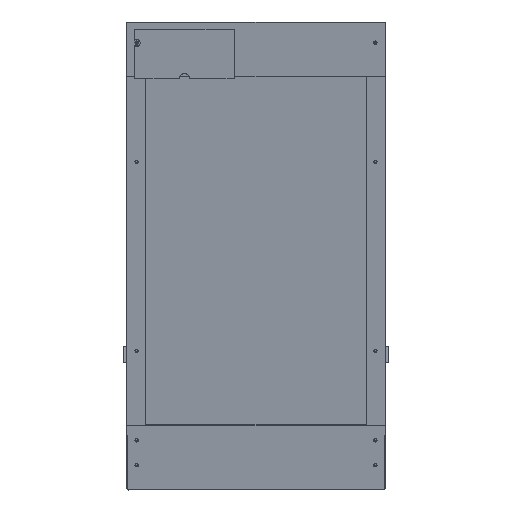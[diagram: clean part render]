
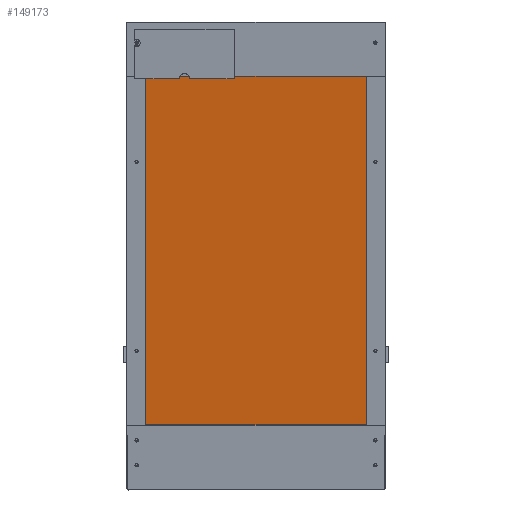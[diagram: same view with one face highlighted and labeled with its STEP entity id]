
A CAD part, top view. The second image highlights one B-rep face of the part: STEP entity #149173.
In plain terms, the highlighted planar face has unit normal (0, -0.174, 0.985).
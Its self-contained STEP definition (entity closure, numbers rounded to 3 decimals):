
#149004 = PLANE('',#149005);
#149005 = AXIS2_PLACEMENT_3D('',#149006,#149007,#149008);
#149006 = CARTESIAN_POINT('',(18.1,64.,86.285));
#149007 = DIRECTION('',(-0.,1.,0.));
#149008 = DIRECTION('',(0.,0.,-1.));
#149032 = PLANE('',#149033);
#149033 = AXIS2_PLACEMENT_3D('',#149034,#149035,#149036);
#149034 = CARTESIAN_POINT('',(241.9,240.675,111.437));
#149035 = DIRECTION('',(1.,0.,0.));
#149036 = DIRECTION('',(-0.,0.,1.));
#149060 = PLANE('',#149061);
#149061 = AXIS2_PLACEMENT_3D('',#149062,#149063,#149064);
#149062 = CARTESIAN_POINT('',(18.1,417.349,136.59));
#149063 = DIRECTION('',(0.,-1.,0.));
#149064 = DIRECTION('',(0.,0.,1.));
#149086 = PLANE('',#149087);
#149087 = AXIS2_PLACEMENT_3D('',#149088,#149089,#149090);
#149088 = CARTESIAN_POINT('',(18.1,240.675,111.437));
#149089 = DIRECTION('',(1.,0.,0.));
#149090 = DIRECTION('',(-0.,0.,1.));
#149103 = VERTEX_POINT('',#149104);
#149104 = CARTESIAN_POINT('',(241.9,417.349,148.59));
#149125 = EDGE_CURVE('',#149126,#149103,#149128,.T.);
#149126 = VERTEX_POINT('',#149127);
#149127 = CARTESIAN_POINT('',(18.1,417.349,148.59));
#149128 = SURFACE_CURVE('',#149129,(#149133,#149140),.PCURVE_S1.);
#149129 = LINE('',#149130,#149131);
#149130 = CARTESIAN_POINT('',(18.1,417.349,148.59));
#149131 = VECTOR('',#149132,1.);
#149132 = DIRECTION('',(1.,0.,0.));
#149133 = PCURVE('',#149060,#149134);
#149134 = DEFINITIONAL_REPRESENTATION('',(#149135),#149139);
#149135 = LINE('',#149136,#149137);
#149136 = CARTESIAN_POINT('',(12.,0.));
#149137 = VECTOR('',#149138,1.);
#149138 = DIRECTION('',(0.,-1.));
#149139 = ( GEOMETRIC_REPRESENTATION_CONTEXT(2) 
PARAMETRIC_REPRESENTATION_CONTEXT() REPRESENTATION_CONTEXT('2D SPACE',''
  ) );
#149140 = PCURVE('',#149141,#149146);
#149141 = PLANE('',#149142);
#149142 = AXIS2_PLACEMENT_3D('',#149143,#149144,#149145);
#149143 = CARTESIAN_POINT('',(18.1,417.349,148.59));
#149144 = DIRECTION('',(0.,0.174,-0.985));
#149145 = DIRECTION('',(0.,-0.985,-0.174));
#149146 = DEFINITIONAL_REPRESENTATION('',(#149147),#149151);
#149147 = LINE('',#149148,#149149);
#149148 = CARTESIAN_POINT('',(0.,0.));
#149149 = VECTOR('',#149150,1.);
#149150 = DIRECTION('',(0.,-1.));
#149151 = ( GEOMETRIC_REPRESENTATION_CONTEXT(2) 
PARAMETRIC_REPRESENTATION_CONTEXT() REPRESENTATION_CONTEXT('2D SPACE',''
  ) );
#149173 = ADVANCED_FACE('',(#149174),#149141,.F.);
#149174 = FACE_BOUND('',#149175,.F.);
#149175 = EDGE_LOOP('',(#149176,#149177,#149200,#149223));
#149176 = ORIENTED_EDGE('',*,*,#149125,.T.);
#149177 = ORIENTED_EDGE('',*,*,#149178,.T.);
#149178 = EDGE_CURVE('',#149103,#149179,#149181,.T.);
#149179 = VERTEX_POINT('',#149180);
#149180 = CARTESIAN_POINT('',(241.9,64.,86.285));
#149181 = SURFACE_CURVE('',#149182,(#149186,#149193),.PCURVE_S1.);
#149182 = LINE('',#149183,#149184);
#149183 = CARTESIAN_POINT('',(241.9,417.349,148.59));
#149184 = VECTOR('',#149185,1.);
#149185 = DIRECTION('',(0.,-0.985,-0.174));
#149186 = PCURVE('',#149141,#149187);
#149187 = DEFINITIONAL_REPRESENTATION('',(#149188),#149192);
#149188 = LINE('',#149189,#149190);
#149189 = CARTESIAN_POINT('',(0.,-223.8));
#149190 = VECTOR('',#149191,1.);
#149191 = DIRECTION('',(1.,0.));
#149192 = ( GEOMETRIC_REPRESENTATION_CONTEXT(2) 
PARAMETRIC_REPRESENTATION_CONTEXT() REPRESENTATION_CONTEXT('2D SPACE',''
  ) );
#149193 = PCURVE('',#149032,#149194);
#149194 = DEFINITIONAL_REPRESENTATION('',(#149195),#149199);
#149195 = LINE('',#149196,#149197);
#149196 = CARTESIAN_POINT('',(37.152,-176.675));
#149197 = VECTOR('',#149198,1.);
#149198 = DIRECTION('',(-0.174,0.985));
#149199 = ( GEOMETRIC_REPRESENTATION_CONTEXT(2) 
PARAMETRIC_REPRESENTATION_CONTEXT() REPRESENTATION_CONTEXT('2D SPACE',''
  ) );
#149200 = ORIENTED_EDGE('',*,*,#149201,.F.);
#149201 = EDGE_CURVE('',#149202,#149179,#149204,.T.);
#149202 = VERTEX_POINT('',#149203);
#149203 = CARTESIAN_POINT('',(18.1,64.,86.285));
#149204 = SURFACE_CURVE('',#149205,(#149209,#149216),.PCURVE_S1.);
#149205 = LINE('',#149206,#149207);
#149206 = CARTESIAN_POINT('',(18.1,64.,86.285));
#149207 = VECTOR('',#149208,1.);
#149208 = DIRECTION('',(1.,0.,0.));
#149209 = PCURVE('',#149141,#149210);
#149210 = DEFINITIONAL_REPRESENTATION('',(#149211),#149215);
#149211 = LINE('',#149212,#149213);
#149212 = CARTESIAN_POINT('',(358.8,0.));
#149213 = VECTOR('',#149214,1.);
#149214 = DIRECTION('',(0.,-1.));
#149215 = ( GEOMETRIC_REPRESENTATION_CONTEXT(2) 
PARAMETRIC_REPRESENTATION_CONTEXT() REPRESENTATION_CONTEXT('2D SPACE',''
  ) );
#149216 = PCURVE('',#149004,#149217);
#149217 = DEFINITIONAL_REPRESENTATION('',(#149218),#149222);
#149218 = LINE('',#149219,#149220);
#149219 = CARTESIAN_POINT('',(0.,0.));
#149220 = VECTOR('',#149221,1.);
#149221 = DIRECTION('',(0.,-1.));
#149222 = ( GEOMETRIC_REPRESENTATION_CONTEXT(2) 
PARAMETRIC_REPRESENTATION_CONTEXT() REPRESENTATION_CONTEXT('2D SPACE',''
  ) );
#149223 = ORIENTED_EDGE('',*,*,#149224,.F.);
#149224 = EDGE_CURVE('',#149126,#149202,#149225,.T.);
#149225 = SURFACE_CURVE('',#149226,(#149230,#149237),.PCURVE_S1.);
#149226 = LINE('',#149227,#149228);
#149227 = CARTESIAN_POINT('',(18.1,417.349,148.59));
#149228 = VECTOR('',#149229,1.);
#149229 = DIRECTION('',(0.,-0.985,-0.174));
#149230 = PCURVE('',#149141,#149231);
#149231 = DEFINITIONAL_REPRESENTATION('',(#149232),#149236);
#149232 = LINE('',#149233,#149234);
#149233 = CARTESIAN_POINT('',(0.,0.));
#149234 = VECTOR('',#149235,1.);
#149235 = DIRECTION('',(1.,0.));
#149236 = ( GEOMETRIC_REPRESENTATION_CONTEXT(2) 
PARAMETRIC_REPRESENTATION_CONTEXT() REPRESENTATION_CONTEXT('2D SPACE',''
  ) );
#149237 = PCURVE('',#149086,#149238);
#149238 = DEFINITIONAL_REPRESENTATION('',(#149239),#149243);
#149239 = LINE('',#149240,#149241);
#149240 = CARTESIAN_POINT('',(37.152,-176.675));
#149241 = VECTOR('',#149242,1.);
#149242 = DIRECTION('',(-0.174,0.985));
#149243 = ( GEOMETRIC_REPRESENTATION_CONTEXT(2) 
PARAMETRIC_REPRESENTATION_CONTEXT() REPRESENTATION_CONTEXT('2D SPACE',''
  ) );
